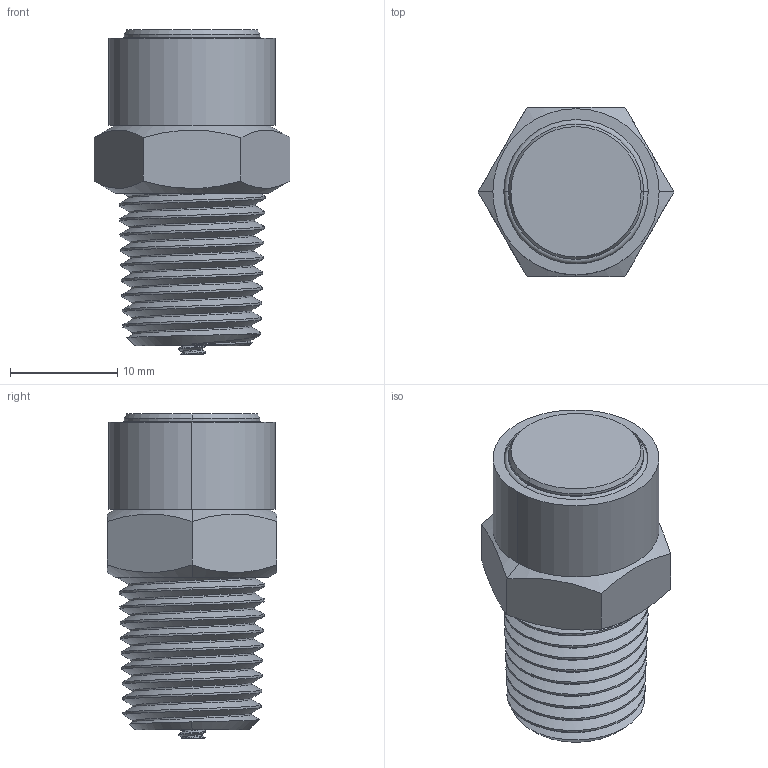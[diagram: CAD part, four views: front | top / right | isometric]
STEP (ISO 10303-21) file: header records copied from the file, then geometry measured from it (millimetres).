
FILE_DESCRIPTION (( 'STEP AP203' ), '1' );
FILE_NAME ('PSNC-PBNC-2-SERIES.STEP', '2018-06-27T21:24:44', ( '' ), ( '' ), 'SwSTEP 2.0', 'SolidWorks 2017', '' );
FILE_SCHEMA (( 'CONFIG_CONTROL_DESIGN' ));
Length unit declared in the file: inch
Products named in the file (2): PSNC-PBNC-2-SERIES
Bounding box: 18.26 x 15.81 x 30.23 mm (x, y, z)
Volume: 2587 mm3; surface area: 4473.9 mm2
Topology: 3 solids, 3 shells, 164 faces, 455 edges, 292 vertices
Faces by surface type: cylinder 77, plane 46, cone 33, bspline 6, torus 2
Entity records: 14492 total; most frequent: CARTESIAN_POINT 10547, ORIENTED_EDGE 908, DIRECTION 685, EDGE_CURVE 454, VERTEX_POINT 290, AXIS2_PLACEMENT_3D 254, LINE 177, VECTOR 177
